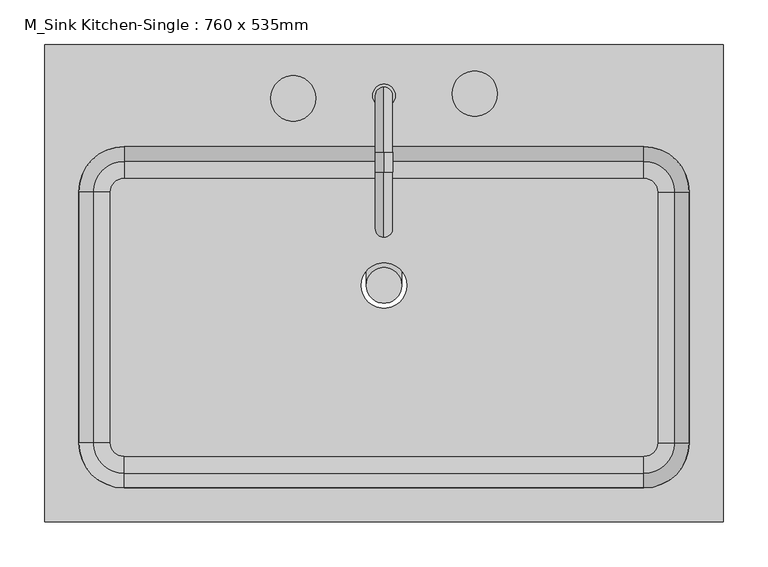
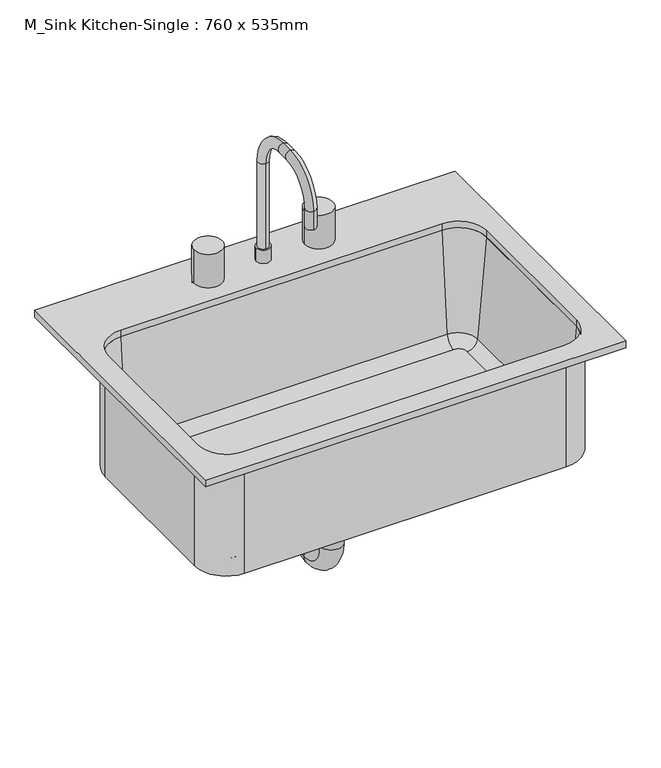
"""IFC4 building model written with IfcOpenShell, lengths in millimetres: flow terminal geometry, M_Sink Kitchen-Single : 760 x 535mm."""

from ifc_helpers import new_model, si_unit, point, frame, frame_2d, origin, place, context, project, spatial, polyline, circle_curve, ellipse_curve, trimmed, segment, composite_curve, outline, extrude, source, transform, mapped, element, save
from ifc_brep_helpers import plane_surface, cylinder_surface, revolved_surface, advanced_brep


def m_sink_kitchen_single_760_x_535mm_d14251e7(model_context):
    return source(origin(), model_context, "Body", "SolidModel", [
        advanced_brep(
        [(363.9392406, 104.7454011, 684.1), (306.7892406, 161.8954011, 684.1), (306.7892406, 161.8954011, 900.0), (363.9392406, 104.7454011, 900.0), (363.9392406, -176.2545989, 684.1), (306.7892406, -233.4045989, 684.1), (-275.4107594, -233.4045989, 684.1), (-332.5607594, -176.2545989, 684.1), (-332.5607594, 104.7454011, 684.1), (-275.4107594, 161.8954011, 684.1), (-9.7107594, 0.0, 684.1), (41.0892406, 0.0, 684.1), (322.0776588, 104.7454011, 693.625), (306.7892406, 120.0338193, 693.625), (-275.4107594, 120.0338193, 693.625), (-290.6991776, 104.7454011, 693.625), (-290.6991776, -176.2545989, 693.625), (-275.4107594, -191.5430171, 693.625), (306.7892406, -191.5430171, 693.625), (322.0776588, -176.2545989, 693.625), (-9.7107594, 0.0, 693.625), (41.0892406, 0.0, 693.625), (341.0551678, 104.7454011, 711.0146831), (306.7892406, 139.0113283, 711.0146831), (357.5892406, 104.7454011, 900.0), (306.7892406, 155.5454011, 900.0), (363.9392406, -176.2545989, 900.0), (341.0551678, -176.2545989, 711.0146831), (357.5892406, -176.2545989, 900.0), (306.7892406, -233.4045989, 900.0), (306.7892406, -210.5205261, 711.0146831), (306.7892406, -227.0545989, 900.0), (-275.4107594, -233.4045989, 900.0), (-275.4107594, -210.5205261, 711.0146831), (-275.4107594, -227.0545989, 900.0), (-332.5607594, -176.2545989, 900.0), (-309.6766866, -176.2545989, 711.0146831), (-326.2107594, -176.2545989, 900.0), (-332.5607594, 104.7454011, 900.0), (-309.6766866, 104.7454011, 711.0146831), (-326.2107594, 104.7454011, 900.0), (-275.4107594, 161.8954011, 900.0), (-275.4107594, 139.0113283, 711.0146831), (-275.4107594, 155.5454011, 900.0)],
        [
            (0, 1, circle_curve(frame((306.7892406, 104.7454011, 684.1), z_axis=(0.0, 0.0, 1.0), x_axis=(0.0, 1.0, 0.0)), 57.15)),
            (1, 2),
            (2, 3, circle_curve(frame((306.7892406, 104.7454011, 900.0), z_axis=(0.0, 0.0, -1.0), x_axis=(0.0, 1.0, 0.0)), 57.15)),
            (3, 0),
            (0, 4),
            (4, 5, circle_curve(frame((306.7892406, -176.2545989, 684.1), z_axis=(0.0, 0.0, -1.0), x_axis=(1.0, 0.0, 0.0)), 57.15)),
            (5, 6),
            (6, 7, circle_curve(frame((-275.4107594, -176.2545989, 684.1), z_axis=(0.0, 0.0, -1.0), x_axis=(0.0, -1.0, 0.0)), 57.15)),
            (7, 8),
            (8, 9, circle_curve(frame((-275.4107594, 104.7454011, 684.1), z_axis=(0.0, 0.0, -1.0), x_axis=(-1.0, 0.0, 0.0)), 57.15)),
            (9, 1),
            (10, 11, circle_curve(frame((15.6892406, 0.0, 684.1), z_axis=(0.0, 0.0, 1.0), x_axis=(1.0, 0.0, 0.0)), 25.4)),
            (11, 10, circle_curve(frame((15.6892406, 0.0, 684.1), z_axis=(0.0, 0.0, 1.0), x_axis=(1.0, 0.0, 0.0)), 25.4)),
            (12, 13, circle_curve(frame((306.7892406, 104.7454011, 693.625), z_axis=(0.0, 0.0, 1.0), x_axis=(0.0, 1.0, 0.0)), 15.2884182)),
            (13, 14),
            (14, 15, circle_curve(frame((-275.4107594, 104.7454011, 693.625), z_axis=(0.0, 0.0, 1.0), x_axis=(-1.0, 0.0, 0.0)), 15.2884182)),
            (15, 16),
            (16, 17, circle_curve(frame((-275.4107594, -176.2545989, 693.625), z_axis=(0.0, 0.0, 1.0), x_axis=(0.0, -1.0, 0.0)), 15.2884182)),
            (17, 18),
            (18, 19, circle_curve(frame((306.7892406, -176.2545989, 693.625), z_axis=(0.0, 0.0, 1.0), x_axis=(1.0, 0.0, 0.0)), 15.2884182)),
            (19, 12),
            (20, 21, circle_curve(frame((15.6892406, 0.0, 693.625), z_axis=(0.0, 0.0, -1.0), x_axis=(1.0, 0.0, 0.0)), 25.4)),
            (21, 20, circle_curve(frame((15.6892406, 0.0, 693.625), z_axis=(0.0, 0.0, -1.0), x_axis=(1.0, 0.0, 0.0)), 25.4)),
            (12, 22, circle_curve(frame((322.0776588, 104.7454011, 712.675), z_axis=(0.0, -1.0, 0.0), x_axis=(1.0, 0.0, 0.0)), 19.05)),
            (22, 23, circle_curve(frame((306.7892406, 104.7454011, 711.0146831), z_axis=(0.0, 0.0, 1.0), x_axis=(0.0, 1.0, 0.0)), 34.2659272)),
            (23, 13, circle_curve(frame((306.7892406, 120.0338193, 712.675), z_axis=(-1.0, 0.0, 0.0), x_axis=(0.0, 1.0, 0.0)), 19.05)),
            (22, 24),
            (24, 25, circle_curve(frame((306.7892406, 104.7454011, 900.0), z_axis=(0.0, 0.0, 1.0), x_axis=(0.0, 1.0, 0.0)), 50.8)),
            (25, 23),
            (2, 25),
            (24, 3),
            (3, 26),
            (26, 4),
            (19, 27, circle_curve(frame((322.0776588, -176.2545989, 712.675), z_axis=(0.0, -1.0, 0.0), x_axis=(1.0, 0.0, 0.0)), 19.05)),
            (27, 22),
            (27, 28),
            (28, 24),
            (28, 26),
            (26, 29, circle_curve(frame((306.7892406, -176.2545989, 900.0), z_axis=(0.0, 0.0, -1.0), x_axis=(1.0, 0.0, 0.0)), 57.15)),
            (29, 5),
            (18, 30, circle_curve(frame((306.7892406, -191.5430171, 712.675), z_axis=(-1.0, 0.0, 0.0), x_axis=(0.0, -1.0, 0.0)), 19.05)),
            (30, 27, circle_curve(frame((306.7892406, -176.2545989, 711.0146831), z_axis=(0.0, 0.0, 1.0), x_axis=(1.0, 0.0, 0.0)), 34.2659272)),
            (30, 31),
            (31, 28, circle_curve(frame((306.7892406, -176.2545989, 900.0), z_axis=(0.0, 0.0, 1.0), x_axis=(1.0, 0.0, 0.0)), 50.8)),
            (31, 29),
            (29, 32),
            (32, 6),
            (17, 33, circle_curve(frame((-275.4107594, -191.5430171, 712.675), z_axis=(-1.0, 0.0, 0.0), x_axis=(0.0, -1.0, 0.0)), 19.05)),
            (33, 30),
            (33, 34),
            (34, 31),
            (34, 32),
            (32, 35, circle_curve(frame((-275.4107594, -176.2545989, 900.0), z_axis=(0.0, 0.0, -1.0), x_axis=(0.0, -1.0, 0.0)), 57.15)),
            (35, 7),
            (16, 36, circle_curve(frame((-290.6991776, -176.2545989, 712.675), z_axis=(0.0, 1.0, 0.0), x_axis=(-1.0, 0.0, 0.0)), 19.05)),
            (36, 33, circle_curve(frame((-275.4107594, -176.2545989, 711.0146831), z_axis=(0.0, 0.0, 1.0), x_axis=(0.0, -1.0, 0.0)), 34.2659272)),
            (36, 37),
            (37, 34, circle_curve(frame((-275.4107594, -176.2545989, 900.0), z_axis=(0.0, 0.0, 1.0), x_axis=(0.0, -1.0, 0.0)), 50.8)),
            (37, 35),
            (35, 38),
            (38, 8),
            (15, 39, circle_curve(frame((-290.6991776, 104.7454011, 712.675), z_axis=(0.0, 1.0, 0.0), x_axis=(-1.0, 0.0, 0.0)), 19.05)),
            (39, 36),
            (39, 40),
            (40, 37),
            (40, 38),
            (38, 41, circle_curve(frame((-275.4107594, 104.7454011, 900.0), z_axis=(0.0, 0.0, -1.0), x_axis=(-1.0, 0.0, 0.0)), 57.15)),
            (41, 9),
            (14, 42, circle_curve(frame((-275.4107594, 120.0338193, 712.675), z_axis=(1.0, 0.0, 0.0), x_axis=(0.0, 1.0, 0.0)), 19.05)),
            (42, 39, circle_curve(frame((-275.4107594, 104.7454011, 711.0146831), z_axis=(0.0, 0.0, 1.0), x_axis=(-1.0, 0.0, 0.0)), 34.2659272)),
            (42, 43),
            (43, 40, circle_curve(frame((-275.4107594, 104.7454011, 900.0), z_axis=(0.0, 0.0, 1.0), x_axis=(-1.0, 0.0, 0.0)), 50.8)),
            (43, 41),
            (41, 2),
            (23, 42),
            (25, 43),
            (20, 10),
            (11, 21),
        ],
        [
            cylinder_surface(frame((306.7892406, 104.7454011, 0.0), z_axis=(0.0, 0.0, -1.0), x_axis=(0.0, 1.0, 0.0)), 57.15),
            plane_surface(frame((306.7892406, 104.7454011, 684.1), z_axis=(0.0, 0.0, -1.0), x_axis=(0.0, 1.0, 0.0))),
            plane_surface(frame((306.7892406, 104.7454011, 693.625), z_axis=(0.0, 0.0, 1.0), x_axis=(0.0, 1.0, 0.0))),
            revolved_surface(trimmed(ellipse_curve(frame((306.7892406, 120.0338193, 712.675), z_axis=(1.0, 0.0, 0.0), x_axis=(0.0, 1.0, 0.0)), 19.05, 19.05), [point((306.7892406, 120.0338193, 693.625))], [point((306.7892406, 139.0113283, 711.0146831))], True, "CARTESIAN"), (306.7892406, 104.7454011, 0.0), (0.0, 0.0, -1.0)),
            revolved_surface(polyline([(306.7892406, 139.0113283, 711.0146831), (306.7892406, 155.5454011, 900.0)]), (306.7892406, 104.7454011, 0.0), (0.0, 0.0, -1.0)),
            plane_surface(frame((306.7892406, 104.7454011, 900.0), z_axis=(0.0, 0.0, 1.0), x_axis=(0.0, 1.0, 0.0))),
            plane_surface(frame((363.9392406, 104.7454011, 900.0), z_axis=(1.0, 0.0, 0.0), x_axis=(0.0, -1.0, 0.0))),
            revolved_surface(polyline([(341.1276588, -176.25459890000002, 712.675), (341.1276588, 104.7454011, 712.675)]), (322.0776588, 104.7454011, 712.675), (0.0, -1.0, 0.0)),
            plane_surface(frame((341.0551678, 104.7454011, 711.0146831), z_axis=(-0.9961946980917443, 0.0, 0.08715574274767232), x_axis=(0.0, -1.0, 0.0))),
            plane_surface(frame((357.5892406, 104.7454011, 900.0), z_axis=(0.0, 0.0, 1.0), x_axis=(0.0, -1.0, 0.0))),
            cylinder_surface(frame((306.7892406, -176.2545989, 0.0), z_axis=(0.0, 0.0, -1.0), x_axis=(1.0, 0.0, 0.0)), 57.15),
            revolved_surface(trimmed(ellipse_curve(frame((322.0776588, -176.2545989, 712.675), z_axis=(0.0, -1.0, 0.0), x_axis=(1.0, 0.0, 0.0)), 19.05, 19.05), [point((322.0776588, -176.2545989, 693.625))], [point((341.0551678, -176.2545989, 711.0146831))], True, "CARTESIAN"), (306.7892406, -176.2545989, 0.0), (0.0, 0.0, -1.0)),
            revolved_surface(polyline([(341.0551678, -176.2545989, 711.0146831), (357.5892406, -176.2545989, 900.0)]), (306.7892406, -176.2545989, 0.0), (0.0, 0.0, -1.0)),
            plane_surface(frame((306.7892406, -176.2545989, 900.0), z_axis=(0.0, 0.0, 1.0), x_axis=(1.0, 0.0, 0.0))),
            plane_surface(frame((306.7892406, -233.4045989, 900.0), z_axis=(0.0, -1.0, 0.0), x_axis=(-1.0, 0.0, 0.0))),
            revolved_surface(polyline([(-275.4107594, -210.5930171, 712.675), (306.7892406, -210.5930171, 712.675)]), (306.7892406, -191.5430171, 712.675), (-1.0, 0.0, 0.0)),
            plane_surface(frame((306.7892406, -210.5205261, 711.0146831), z_axis=(0.0, 0.9961946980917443, 0.08715574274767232), x_axis=(-1.0, 0.0, 0.0))),
            plane_surface(frame((306.7892406, -227.0545989, 900.0), z_axis=(0.0, 0.0, 1.0), x_axis=(-1.0, 0.0, 0.0))),
            cylinder_surface(frame((-275.4107594, -176.2545989, 0.0), z_axis=(0.0, 0.0, -1.0), x_axis=(0.0, -1.0, 0.0)), 57.15),
            revolved_surface(trimmed(ellipse_curve(frame((-275.4107594, -191.5430171, 712.675), z_axis=(-1.0, 0.0, 0.0), x_axis=(0.0, -1.0, 0.0)), 19.05, 19.05), [point((-275.4107594, -191.5430171, 693.625))], [point((-275.4107594, -210.5205261, 711.0146831))], True, "CARTESIAN"), (-275.4107594, -176.2545989, 0.0), (0.0, 0.0, -1.0)),
            revolved_surface(polyline([(-275.4107594, -210.5205261, 711.0146831), (-275.4107594, -227.0545989, 900.0)]), (-275.4107594, -176.2545989, 0.0), (0.0, 0.0, -1.0)),
            plane_surface(frame((-275.4107594, -176.2545989, 900.0), z_axis=(0.0, 0.0, 1.0), x_axis=(0.0, -1.0, 0.0))),
            plane_surface(frame((-332.5607594, -176.2545989, 900.0), z_axis=(-1.0, 0.0, 0.0), x_axis=(0.0, 1.0, 0.0))),
            revolved_surface(polyline([(-309.7491776, 104.74540110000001, 712.675), (-309.7491776, -176.2545989, 712.675)]), (-290.6991776, -176.2545989, 712.675), (0.0, 1.0, 0.0)),
            plane_surface(frame((-309.6766866, -176.2545989, 711.0146831), z_axis=(0.9961946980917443, 0.0, 0.08715574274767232), x_axis=(0.0, 1.0, 0.0))),
            plane_surface(frame((-326.2107594, -176.2545989, 900.0), z_axis=(0.0, 0.0, 1.0), x_axis=(0.0, 1.0, 0.0))),
            cylinder_surface(frame((-275.4107594, 104.7454011, 0.0), z_axis=(0.0, 0.0, -1.0), x_axis=(-1.0, 0.0, 0.0)), 57.15),
            revolved_surface(trimmed(ellipse_curve(frame((-290.6991776, 104.7454011, 712.675), z_axis=(0.0, 1.0, 0.0), x_axis=(-1.0, 0.0, 0.0)), 19.05, 19.05), [point((-290.6991776, 104.7454011, 693.625))], [point((-309.6766866, 104.7454011, 711.0146831))], True, "CARTESIAN"), (-275.4107594, 104.7454011, 0.0), (0.0, 0.0, -1.0)),
            revolved_surface(polyline([(-309.6766866, 104.7454011, 711.0146831), (-326.2107594, 104.7454011, 900.0)]), (-275.4107594, 104.7454011, 0.0), (0.0, 0.0, -1.0)),
            plane_surface(frame((-275.4107594, 104.7454011, 900.0), z_axis=(0.0, 0.0, 1.0), x_axis=(-1.0, 0.0, 0.0))),
            plane_surface(frame((-275.4107594, 161.8954011, 900.0), z_axis=(0.0, 1.0, 0.0), x_axis=(1.0, 0.0, 0.0))),
            revolved_surface(polyline([(306.7892406, 139.08381930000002, 712.675), (-275.4107594, 139.08381930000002, 712.675)]), (-275.4107594, 120.0338193, 712.675), (1.0, 0.0, 0.0)),
            plane_surface(frame((-275.4107594, 139.0113283, 711.0146831), z_axis=(0.0, -0.9961946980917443, 0.08715574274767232), x_axis=(1.0, 0.0, 0.0))),
            plane_surface(frame((-275.4107594, 155.5454011, 900.0), z_axis=(0.0, 0.0, 1.0), x_axis=(1.0, 0.0, 0.0))),
            revolved_surface(polyline([(41.0892406, 0.0, 684.1), (41.0892406, 0.0, 693.625)]), (15.6892406, 0.0, 0.0), (0.0, 0.0, -1.0)),
        ],
        [
            (0, [[1, 2, 3, 4]]),
            (1, [[-1, 5, 6, 7, 8, 9, 10, 11], [12, 13]]),
            (2, [[14, 15, 16, 17, 18, 19, 20, 21], [22, 23]]),
            (3, [[-14, 24, 25, 26]]),
            (4, [[-25, 27, 28, 29]]),
            (5, [[-3, 30, -28, 31]]),
            (6, [[-4, 32, 33, -5]]),
            (7, [[-24, -21, 34, 35]]),
            (8, [[-27, -35, 36, 37]]),
            (9, [[-31, -37, 38, -32]]),
            (10, [[-33, 39, 40, -6]]),
            (11, [[-34, -20, 41, 42]]),
            (12, [[-36, -42, 43, 44]]),
            (13, [[-38, -44, 45, -39]]),
            (14, [[-40, 46, 47, -7]]),
            (15, [[-41, -19, 48, 49]]),
            (16, [[-43, -49, 50, 51]]),
            (17, [[-45, -51, 52, -46]]),
            (18, [[-47, 53, 54, -8]]),
            (19, [[-48, -18, 55, 56]]),
            (20, [[-50, -56, 57, 58]]),
            (21, [[-52, -58, 59, -53]]),
            (22, [[-54, 60, 61, -9]]),
            (23, [[-55, -17, 62, 63]]),
            (24, [[-57, -63, 64, 65]]),
            (25, [[-59, -65, 66, -60]]),
            (26, [[-61, 67, 68, -10]]),
            (27, [[-62, -16, 69, 70]]),
            (28, [[-64, -70, 71, 72]]),
            (29, [[-66, -72, 73, -67]]),
            (30, [[-2, -11, -68, 74]]),
            (31, [[-26, 75, -69, -15]]),
            (32, [[-29, 76, -71, -75]]),
            (33, [[-30, -74, -73, -76]]),
            (34, [[-22, 77, -13, 78]]),
            (34, [[-23, -78, -12, -77]]),
        ],
    ),
        advanced_brep(
        [(2.9892406, 212.6954011, 938.1), (28.3892406, 212.6954011, 938.1), (15.6892406, 222.2204011, 938.1), (15.6892406, 203.1704011, 938.1), (2.9892406, 212.6954011, 912.7), (28.3892406, 212.6954011, 912.7), (15.6892406, 222.2204011, 1100.025), (15.6892406, 203.1704011, 1100.025), (15.6892406, 149.1954011, 1173.05), (15.6892406, 149.1954011, 1154.0), (15.6892406, 126.9704011, 1173.05), (15.6892406, 126.9704011, 1154.0), (15.6892406, 53.9454011, 1100.025), (15.6892406, 72.9954011, 1100.025), (15.6892406, 53.9454011, 1065.1), (15.6892406, 72.9954011, 1065.1)],
        [
            (0, 1, circle_curve(frame((15.6892406, 212.6954011, 938.1), z_axis=(0.0, 0.0, 1.0), x_axis=(1.0, 0.0, 0.0)), 12.7)),
            (1, 0, circle_curve(frame((15.6892406, 212.6954011, 938.1), z_axis=(0.0, 0.0, 1.0), x_axis=(1.0, 0.0, 0.0)), 12.7)),
            (2, 3, circle_curve(frame((15.6892406, 212.6954011, 938.1), z_axis=(0.0, 0.0, -1.0), x_axis=(0.0, -1.0, 0.0)), 9.525)),
            (3, 2, circle_curve(frame((15.6892406, 212.6954011, 938.1), z_axis=(0.0, 0.0, -1.0), x_axis=(0.0, -1.0, 0.0)), 9.525)),
            (4, 5, circle_curve(frame((15.6892406, 212.6954011, 912.7), z_axis=(0.0, 0.0, -1.0), x_axis=(1.0, 0.0, 0.0)), 12.7)),
            (5, 4, circle_curve(frame((15.6892406, 212.6954011, 912.7), z_axis=(0.0, 0.0, -1.0), x_axis=(1.0, 0.0, 0.0)), 12.7)),
            (0, 4),
            (5, 1),
            (6, 7, circle_curve(frame((15.6892406, 212.6954011, 1100.025), z_axis=(0.0, 0.0, -1.0), x_axis=(0.0, -1.0, 0.0)), 9.525)),
            (7, 3),
            (2, 6),
            (7, 6, circle_curve(frame((15.6892406, 212.6954011, 1100.025), z_axis=(0.0, 0.0, -1.0), x_axis=(0.0, -1.0, 0.0)), 9.525)),
            (6, 8, circle_curve(frame((15.6892406, 149.1954011, 1100.025), z_axis=(1.0, 0.0, 0.0), x_axis=(0.0, 1.0, 0.0)), 73.025)),
            (8, 9, circle_curve(frame((15.6892406, 149.1954011, 1163.525), z_axis=(0.0, 1.0, 0.0), x_axis=(0.0, 0.0, -1.0)), 9.525)),
            (9, 7, circle_curve(frame((15.6892406, 149.1954011, 1100.025), z_axis=(-1.0, 0.0, 0.0), x_axis=(0.0, 1.0, 0.0)), 53.975)),
            (9, 8, circle_curve(frame((15.6892406, 149.1954011, 1163.525), z_axis=(0.0, 1.0, 0.0), x_axis=(0.0, 0.0, -1.0)), 9.525)),
            (8, 10),
            (10, 11, circle_curve(frame((15.6892406, 126.9704011, 1163.525), z_axis=(0.0, 1.0, 0.0), x_axis=(0.0, 0.0, -1.0)), 9.525)),
            (11, 9),
            (11, 10, circle_curve(frame((15.6892406, 126.9704011, 1163.525), z_axis=(0.0, 1.0, 0.0), x_axis=(0.0, 0.0, -1.0)), 9.525)),
            (10, 12, circle_curve(frame((15.6892406, 126.9704011, 1100.025), z_axis=(1.0, 0.0, 0.0), x_axis=(0.0, 0.0, 1.0)), 73.025)),
            (12, 13, circle_curve(frame((15.6892406, 63.4704011, 1100.025), z_axis=(0.0, 0.0, 1.0), x_axis=(0.0, 1.0, 0.0)), 9.525)),
            (13, 11, circle_curve(frame((15.6892406, 126.9704011, 1100.025), z_axis=(-1.0, 0.0, 0.0), x_axis=(0.0, 0.0, 1.0)), 53.975)),
            (13, 12, circle_curve(frame((15.6892406, 63.4704011, 1100.025), z_axis=(0.0, 0.0, 1.0), x_axis=(0.0, 1.0, 0.0)), 9.525)),
            (14, 15, circle_curve(frame((15.6892406, 63.4704011, 1065.1), z_axis=(0.0, 0.0, -1.0), x_axis=(0.0, 1.0, 0.0)), 9.525)),
            (15, 14, circle_curve(frame((15.6892406, 63.4704011, 1065.1), z_axis=(0.0, 0.0, -1.0), x_axis=(0.0, 1.0, 0.0)), 9.525)),
            (12, 14),
            (15, 13),
        ],
        [
            plane_surface(frame((28.3892406, 212.6954011, 938.1), z_axis=(0.0, 0.0, 1.0), x_axis=(0.0, 1.0, 0.0))),
            plane_surface(frame((28.3892406, 212.6954011, 912.7), z_axis=(0.0, 0.0, -1.0), x_axis=(0.0, -1.0, 0.0))),
            cylinder_surface(frame((15.6892406, 212.6954011, 912.7), z_axis=(0.0, 0.0, 1.0), x_axis=(1.0, 0.0, 0.0)), 12.7),
            cylinder_surface(frame((15.6892406, 212.6954011, 912.7), z_axis=(0.0, 0.0, -1.0), x_axis=(0.0, -1.0, 0.0)), 9.525),
            revolved_surface(trimmed(ellipse_curve(frame((15.6892406, 212.6954011, 1100.025), z_axis=(0.0, 0.0, -1.0), x_axis=(0.0, -1.0, 0.0)), 9.525, 9.525), [point((15.6892406, 222.2204011, 1100.025))], [point((15.6892406, 203.1704011, 1100.025))], True, "CARTESIAN"), (15.6892406, 149.1954011, 1100.025), (1.0, 0.0, 0.0)),
            revolved_surface(trimmed(ellipse_curve(frame((15.6892406, 212.6954011, 1100.025), z_axis=(0.0, 0.0, -1.0), x_axis=(0.0, -1.0, 0.0)), 9.525, 9.525), [point((15.6892406, 203.1704011, 1100.025))], [point((15.6892406, 222.2204011, 1100.025))], True, "CARTESIAN"), (15.6892406, 149.1954011, 1100.025), (1.0, 0.0, 0.0)),
            cylinder_surface(frame((15.6892406, 149.1954011, 1163.525), z_axis=(0.0, 1.0, 0.0), x_axis=(0.0, 0.0, -1.0)), 9.525),
            revolved_surface(trimmed(ellipse_curve(frame((15.6892406, 126.9704011, 1163.525), z_axis=(0.0, 1.0, 0.0), x_axis=(0.0, 0.0, -1.0)), 9.525, 9.525), [point((15.6892406, 126.9704011, 1173.05))], [point((15.6892406, 126.9704011, 1154.0))], True, "CARTESIAN"), (15.6892406, 126.9704011, 1100.025), (1.0, 0.0, 0.0)),
            revolved_surface(trimmed(ellipse_curve(frame((15.6892406, 126.9704011, 1163.525), z_axis=(0.0, 1.0, 0.0), x_axis=(0.0, 0.0, -1.0)), 9.525, 9.525), [point((15.6892406, 126.9704011, 1154.0))], [point((15.6892406, 126.9704011, 1173.05))], True, "CARTESIAN"), (15.6892406, 126.9704011, 1100.025), (1.0, 0.0, 0.0)),
            plane_surface(frame((15.6892406, 53.9454011, 1065.1), z_axis=(0.0, 0.0, -1.0), x_axis=(-1.0, 0.0, 0.0))),
            cylinder_surface(frame((15.6892406, 63.4704011, 1100.025), z_axis=(0.0, 0.0, 1.0), x_axis=(0.0, 1.0, 0.0)), 9.525),
        ],
        [
            (0, [[1, 2], [3, 4]]),
            (1, [[5, 6]]),
            (2, [[-1, 7, -6, 8]]),
            (2, [[-2, -8, -5, -7]]),
            (3, [[9, 10, -3, 11]]),
            (3, [[12, -11, -4, -10]]),
            (4, [[-9, 13, 14, 15]]),
            (5, [[-12, -15, 16, -13]]),
            (6, [[-14, 17, 18, 19]]),
            (6, [[-16, -19, 20, -17]]),
            (7, [[-18, 21, 22, 23]]),
            (8, [[-20, -23, 24, -21]]),
            (9, [[25, 26]]),
            (10, [[-22, 27, -26, 28]]),
            (10, [[-24, -28, -25, -27]]),
        ],
    ),
        extrude(outline(composite_curve([segment(trimmed(circle_curve(frame_2d((-85.9107594, 209.6166076)), 25.4), [point((-111.3107594, 209.6166076))], [point((-60.5107594, 209.6166076))], False, "CARTESIAN"), True, "CONTINUOUS"), segment(trimmed(circle_curve(frame_2d((-85.9107594, 209.6166076)), 25.4), [point((-60.5107594, 209.6166076))], [point((-111.3107594, 209.6166076))], False, "CARTESIAN"), True, "CONTINUOUS")], self_intersect=False)), frame((0.0, 0.0, 877.9299529), z_axis=(0.0, 0.0, 1.0), x_axis=(1.0, 0.0, 0.0)), (0.0, 0.0, 1.0), 98.2700471),
        extrude(outline(composite_curve([segment(trimmed(circle_curve(frame_2d((117.2892406, 214.8133323)), 25.4), [point((91.8892406, 214.8133323))], [point((142.6892406, 214.8133323))], False, "CARTESIAN"), True, "CONTINUOUS"), segment(trimmed(circle_curve(frame_2d((117.2892406, 214.8133323)), 25.4), [point((142.6892406, 214.8133323))], [point((91.8892406, 214.8133323))], False, "CARTESIAN"), True, "CONTINUOUS")], self_intersect=False)), frame((0.0, 0.0, 877.9299529), z_axis=(0.0, 0.0, 1.0), x_axis=(1.0, 0.0, 0.0)), (0.0, 0.0, 1.0), 98.2700471),
        extrude(outline(polyline([(395.6892406, 269.8454011), (395.6892406, -265.1545989), (-364.3107594, -265.1545989), (-364.3107594, 269.8454011), (395.6892406, 269.8454011)]), holes=[composite_curve([segment(polyline([(306.7892406, 155.5454011), (-275.4107594, 155.5454011)]), True, "CONTINUOUS"), segment(trimmed(circle_curve(frame_2d((-275.4107594, 104.7454011)), 50.8), [point((-275.4107594, 155.5454011))], [point((-326.2107594, 104.7454011))], True, "CARTESIAN"), True, "CONTINUOUS"), segment(polyline([(-326.2107594, 104.7454011), (-326.2107594, -176.2545989)]), True, "CONTINUOUS"), segment(trimmed(circle_curve(frame_2d((-275.4107594, -176.2545989)), 50.8), [point((-326.2107594, -176.2545989))], [point((-275.4107594, -227.0545989))], True, "CARTESIAN"), True, "CONTINUOUS"), segment(polyline([(-275.4107594, -227.0545989), (306.7892406, -227.0545989)]), True, "CONTINUOUS"), segment(trimmed(circle_curve(frame_2d((306.7892406, -176.2545989)), 50.8), [point((306.7892406, -227.0545989))], [point((357.5892406, -176.2545989))], True, "CARTESIAN"), True, "CONTINUOUS"), segment(polyline([(357.5892406, -176.2545989), (357.5892406, 104.7454011)]), True, "CONTINUOUS"), segment(trimmed(circle_curve(frame_2d((306.7892406, 104.7454011)), 50.8), [point((357.5892406, 104.7454011))], [point((306.7892406, 155.5454011))], True, "CARTESIAN"), True, "CONTINUOUS")], self_intersect=False)]), frame((0.0, 0.0, 900.0), z_axis=(0.0, 0.0, 1.0), x_axis=(1.0, 0.0, 0.0)), (0.0, 0.0, 1.0), 12.7),
        advanced_brep(
        [(-4.3107594, 0.0, 684.1), (35.6892406, 0.0, 684.1), (-4.3107594, 0.0, 499.1), (35.6892406, 0.0, 499.1), (35.6892406, 50.0, 449.1), (-4.3107594, 50.0, 449.1), (35.6892406, 100.0, 499.1), (-4.3107594, 100.0, 499.1), (-4.3107594, 100.0, 569.1), (35.6892406, 100.0, 569.1), (35.6892406, 150.0, 619.1), (-4.3107594, 150.0, 619.1), (-4.3107594, 179.8454011, 619.1), (35.6892406, 179.8454011, 619.1)],
        [
            (0, 1, circle_curve(frame((15.6892406, 0.0, 684.1), z_axis=(0.0, 0.0, 1.0), x_axis=(1.0, 0.0, 0.0)), 20.0)),
            (1, 0, circle_curve(frame((15.6892406, 0.0, 684.1), z_axis=(0.0, 0.0, 1.0), x_axis=(1.0, 0.0, 0.0)), 20.0)),
            (0, 2),
            (2, 3, circle_curve(frame((15.6892406, 0.0, 499.1), z_axis=(0.0, 0.0, 1.0), x_axis=(1.0, 0.0, 0.0)), 20.0)),
            (3, 1),
            (3, 2, circle_curve(frame((15.6892406, 0.0, 499.1), z_axis=(0.0, 0.0, 1.0), x_axis=(1.0, 0.0, 0.0)), 20.0)),
            (4, 3, circle_curve(frame((35.6892406, 50.0, 499.1), z_axis=(-1.0, 0.0, 0.0), x_axis=(0.0, -1.0, 0.0)), 50.0)),
            (2, 5, circle_curve(frame((-4.3107594, 50.0, 499.1), z_axis=(1.0, 0.0, 0.0), x_axis=(0.0, -1.0, 0.0)), 50.0)),
            (5, 4, circle_curve(frame((15.6892406, 50.0, 449.1), z_axis=(0.0, -1.0, 0.0), x_axis=(1.0, 0.0, 0.0)), 20.0)),
            (4, 5, circle_curve(frame((15.6892406, 50.0, 449.1), z_axis=(0.0, -1.0, 0.0), x_axis=(1.0, 0.0, 0.0)), 20.0)),
            (6, 4, circle_curve(frame((35.6892406, 50.0, 499.1), z_axis=(-1.0, 0.0, 0.0), x_axis=(0.0, 0.0, -1.0)), 50.0)),
            (5, 7, circle_curve(frame((-4.3107594, 50.0, 499.1), z_axis=(1.0, 0.0, 0.0), x_axis=(0.0, 0.0, -1.0)), 50.0)),
            (7, 6, circle_curve(frame((15.6892406, 100.0, 499.1), z_axis=(0.0, 0.0, -1.0), x_axis=(1.0, 0.0, 0.0)), 20.0)),
            (6, 7, circle_curve(frame((15.6892406, 100.0, 499.1), z_axis=(0.0, 0.0, -1.0), x_axis=(1.0, 0.0, 0.0)), 20.0)),
            (7, 8),
            (8, 9, circle_curve(frame((15.6892406, 100.0, 569.1), z_axis=(0.0, 0.0, -1.0), x_axis=(1.0, 0.0, 0.0)), 20.0)),
            (9, 6),
            (9, 8, circle_curve(frame((15.6892406, 100.0, 569.1), z_axis=(0.0, 0.0, -1.0), x_axis=(1.0, 0.0, 0.0)), 20.0)),
            (10, 9, circle_curve(frame((35.6892406, 150.0, 569.1), z_axis=(1.0, 0.0, 0.0), x_axis=(0.0, -1.0, 0.0)), 50.0)),
            (8, 11, circle_curve(frame((-4.3107594, 150.0, 569.1), z_axis=(-1.0, 0.0, 0.0), x_axis=(0.0, -1.0, 0.0)), 50.0)),
            (11, 10, circle_curve(frame((15.6892406, 150.0, 619.1), z_axis=(0.0, -1.0, 0.0), x_axis=(1.0, 0.0, 0.0)), 20.0)),
            (10, 11, circle_curve(frame((15.6892406, 150.0, 619.1), z_axis=(0.0, -1.0, 0.0), x_axis=(1.0, 0.0, 0.0)), 20.0)),
            (12, 13, circle_curve(frame((15.6892406, 179.8454011, 619.1), z_axis=(0.0, 1.0, 0.0), x_axis=(1.0, 0.0, 0.0)), 20.0)),
            (13, 12, circle_curve(frame((15.6892406, 179.8454011, 619.1), z_axis=(0.0, 1.0, 0.0), x_axis=(1.0, 0.0, 0.0)), 20.0)),
            (11, 12),
            (13, 10),
        ],
        [
            plane_surface(frame((15.6892406, 0.0, 684.1), z_axis=(0.0, 0.0, 1.0), x_axis=(1.0, 0.0, 0.0))),
            cylinder_surface(frame((15.6892406, 0.0, 684.1), z_axis=(0.0, 0.0, 1.0), x_axis=(1.0, 0.0, 0.0)), 20.0),
            revolved_surface(trimmed(ellipse_curve(frame((15.6892406, 0.0, 499.1), z_axis=(0.0, 0.0, 1.0), x_axis=(1.0, 0.0, 0.0)), 20.0, 20.0), [point((-4.3107594, 0.0, 499.1))], [point((35.6892406, 0.0, 499.1))], True, "CARTESIAN"), (15.6892406, 50.0, 499.1), (1.0, 0.0, 0.0)),
            revolved_surface(trimmed(ellipse_curve(frame((15.6892406, 0.0, 499.1), z_axis=(0.0, 0.0, 1.0), x_axis=(1.0, 0.0, 0.0)), 20.0, 20.0), [point((35.6892406, 0.0, 499.1))], [point((-4.3107594, 0.0, 499.1))], True, "CARTESIAN"), (15.6892406, 50.0, 499.1), (1.0, 0.0, 0.0)),
            revolved_surface(trimmed(ellipse_curve(frame((15.6892406, 50.0, 449.1), z_axis=(0.0, -1.0, 0.0), x_axis=(1.0, 0.0, 0.0)), 20.0, 20.0), [point((-4.3107594, 50.0, 449.1))], [point((35.6892406, 50.0, 449.1))], True, "CARTESIAN"), (15.6892406, 50.0, 499.1), (1.0, 0.0, 0.0)),
            revolved_surface(trimmed(ellipse_curve(frame((15.6892406, 50.0, 449.1), z_axis=(0.0, -1.0, 0.0), x_axis=(1.0, 0.0, 0.0)), 20.0, 20.0), [point((35.6892406, 50.0, 449.1))], [point((-4.3107594, 50.0, 449.1))], True, "CARTESIAN"), (15.6892406, 50.0, 499.1), (1.0, 0.0, 0.0)),
            cylinder_surface(frame((15.6892406, 100.0, 499.1), z_axis=(0.0, 0.0, -1.0), x_axis=(1.0, 0.0, 0.0)), 20.0),
            revolved_surface(trimmed(ellipse_curve(frame((15.6892406, 100.0, 569.1), z_axis=(0.0, 0.0, -1.0), x_axis=(1.0, 0.0, 0.0)), 20.0, 20.0), [point((-4.3107594, 100.0, 569.1))], [point((35.6892406, 100.0, 569.1))], True, "CARTESIAN"), (15.6892406, 150.0, 569.1), (-1.0, 0.0, 0.0)),
            revolved_surface(trimmed(ellipse_curve(frame((15.6892406, 100.0, 569.1), z_axis=(0.0, 0.0, -1.0), x_axis=(1.0, 0.0, 0.0)), 20.0, 20.0), [point((35.6892406, 100.0, 569.1))], [point((-4.3107594, 100.0, 569.1))], True, "CARTESIAN"), (15.6892406, 150.0, 569.1), (-1.0, 0.0, 0.0)),
            plane_surface(frame((15.6892406, 179.8454011, 619.1), z_axis=(0.0, 1.0, 0.0), x_axis=(1.0, 0.0, 0.0))),
            cylinder_surface(frame((15.6892406, 150.0, 619.1), z_axis=(0.0, -1.0, 0.0), x_axis=(1.0, 0.0, 0.0)), 20.0),
        ],
        [
            (0, [[1, 2]]),
            (1, [[-1, 3, 4, 5]]),
            (1, [[-2, -5, 6, -3]]),
            (2, [[7, -4, 8, 9]]),
            (3, [[-8, -6, -7, 10]]),
            (4, [[11, -9, 12, 13]]),
            (5, [[-12, -10, -11, 14]]),
            (6, [[-13, 15, 16, 17]]),
            (6, [[-14, -17, 18, -15]]),
            (7, [[19, -16, 20, 21]]),
            (8, [[-20, -18, -19, 22]]),
            (9, [[23, 24]]),
            (10, [[-21, 25, -24, 26]]),
            (10, [[-22, -26, -23, -25]]),
        ],
    ),
    ])


if __name__ == "__main__":
    model = new_model("IFC4")
    model_context = context("Model", 3, world=origin())
    ifc_project = project(units=[si_unit("LENGTHUNIT", "METRE", prefix="MILLI")], contexts=[model_context])
    site = spatial("IfcSite", under=ifc_project)
    building = spatial("IfcBuilding", under=site)
    placement = place(None, origin())
    m_sink_kitchen_single_760_x_535mm_shape = m_sink_kitchen_single_760_x_535mm_d14251e7(model_context)
    element("IfcFlowTerminal", 1, ObjectType="M_Sink Kitchen-Single : 760 x 535mm", at=placement, inside=building, context=model_context, shape_type="MappedRepresentation", body=[
        mapped(m_sink_kitchen_single_760_x_535mm_shape, transform((0.0, 0.0, 0.0), x_axis=(1.0, 0.0, 0.0), y_axis=(0.0, 1.0, 0.0), z_axis=(0.0, 0.0, 1.0))),
    ])
    save(model, "model.ifc")
